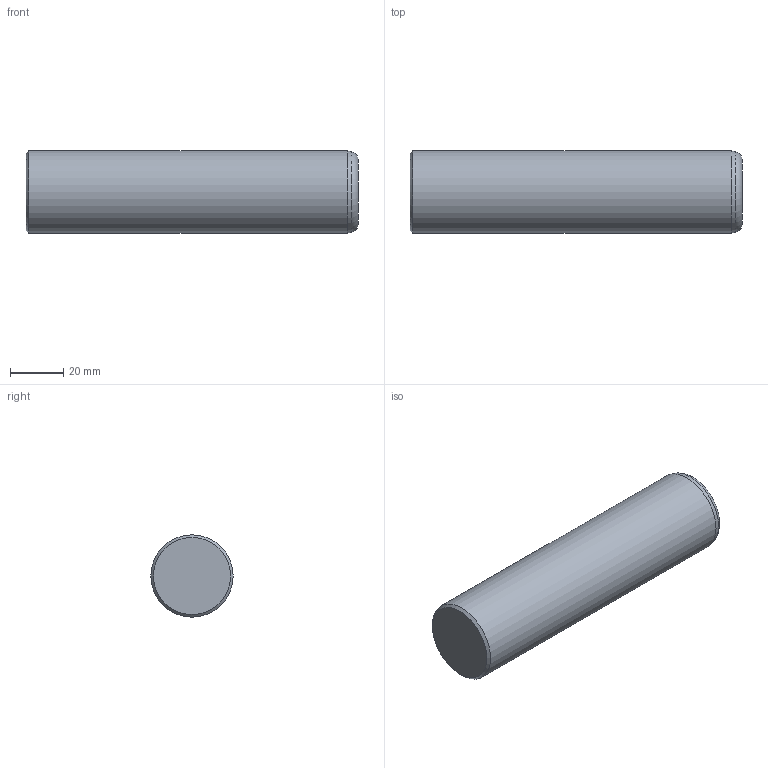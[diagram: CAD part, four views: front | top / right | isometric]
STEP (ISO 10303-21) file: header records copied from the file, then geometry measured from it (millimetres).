
FILE_DESCRIPTION(/* description */ ('Impex Ready, www.impex-ready.pl'),/* implementation_level */ '2;1');
FILE_NAME(/* name */ 'C:\Users\VIKKY\Nextcloud\SM\projekt 10 - części na stronę internetową\Pliki_3D_new\287 Słupy C4\287_C4_STEP\C431125.ipt.step',/* time_stamp */ '2021-12-20T14:23:46+01:00',/* author */ ('SM'),/* organization */ (''),/* preprocessor_version */ 'ST-DEVELOPER v18.1',/* originating_system */ 'Autodesk Inventor 2021',/* authorisation */ '');
FILE_SCHEMA (('AUTOMOTIVE_DESIGN { 1 0 10303 214 3 1 1 }'));
Length unit declared in the file: millimetre
Products named in the file (1): C431125
Bounding box: 125 x 31 x 31 mm (x, y, z)
Volume: 94013.6 mm3; surface area: 13462.6 mm2
Topology: 1 solids, 1 shells, 6 faces, 12 edges, 8 vertices
Faces by surface type: cone 2, plane 2, torus 1, cylinder 1
Full cylindrical faces by diameter (mm): 31 x1
Entity records: 239 total; most frequent: DIRECTION 35, CARTESIAN_POINT 27, ORIENTED_EDGE 24, AXIS2_PLACEMENT_3D 16, EDGE_CURVE 12, CIRCLE 9, VERTEX_POINT 8, STYLED_ITEM 7
